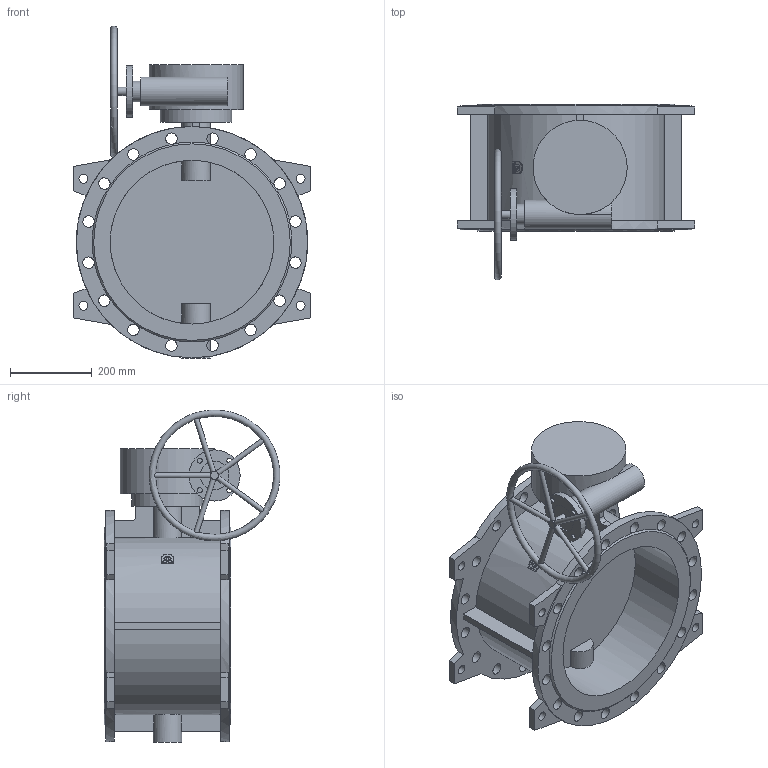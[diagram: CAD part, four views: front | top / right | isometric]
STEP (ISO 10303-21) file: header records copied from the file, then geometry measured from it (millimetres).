
FILE_DESCRIPTION(('STEP AP203'), '1');
FILE_NAME('Çàòâîð 023F.Z DN400 PN10_ìàõ', '', ('UNSPECIFIED'), ('UNSPECIFIED'), 'ASCON STEP Converter 1.6', 'ASCON Math Kernel', '');
FILE_SCHEMA(('CONFIG_CONTROL_DESIGN'));
Length unit declared in the file: millimetre
Bounding box: 580 x 429.65 x 810.81 mm (x, y, z)
Volume: 24028801.4 mm3; surface area: 2004204.6 mm2
Topology: 1 solids, 1 shells, 181 faces, 579 edges, 385 vertices
Faces by surface type: plane 90, cylinder 88, cone 2, torus 1
Full cylindrical faces by diameter (mm): 12 x9, 14 x4, 18 x4, 20 x2, 22 x8, 28 x32, 50 x1, 70 x3, 125 x1, 175 x1, 230 x1, 400 x2, 565 x2
Entity records: 12369 total; most frequent: CARTESIAN_POINT 5845, DIRECTION 1025, ORIENTED_EDGE 1004, EDGE_CURVE 502, AXIS2_PLACEMENT_3D 422, VERTEX_POINT 383, EDGE_LOOP 337, CIRCLE 241
